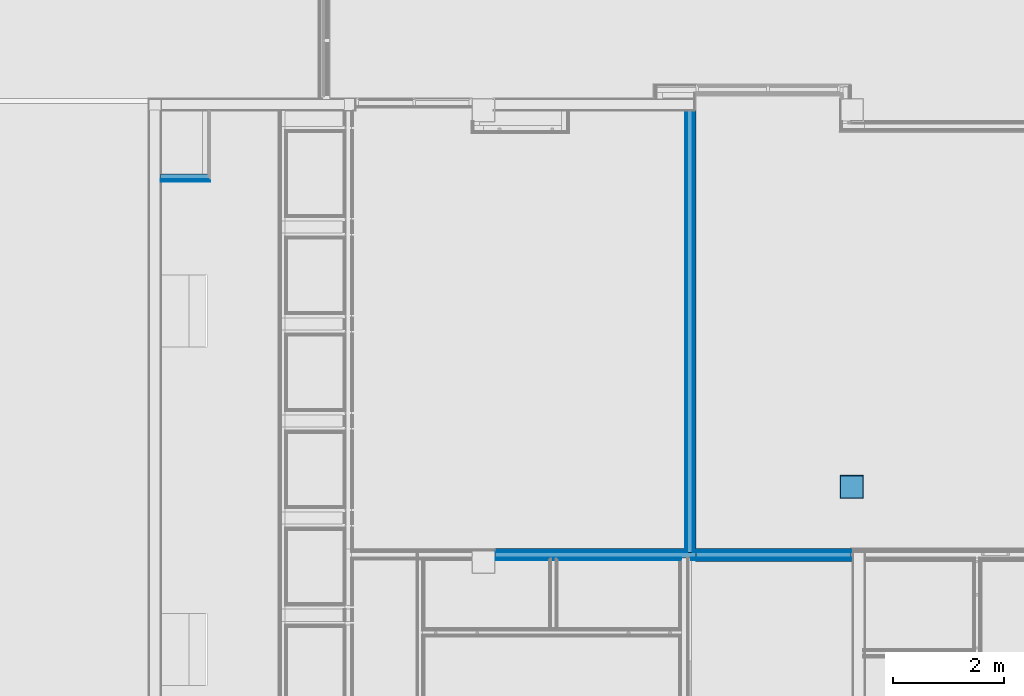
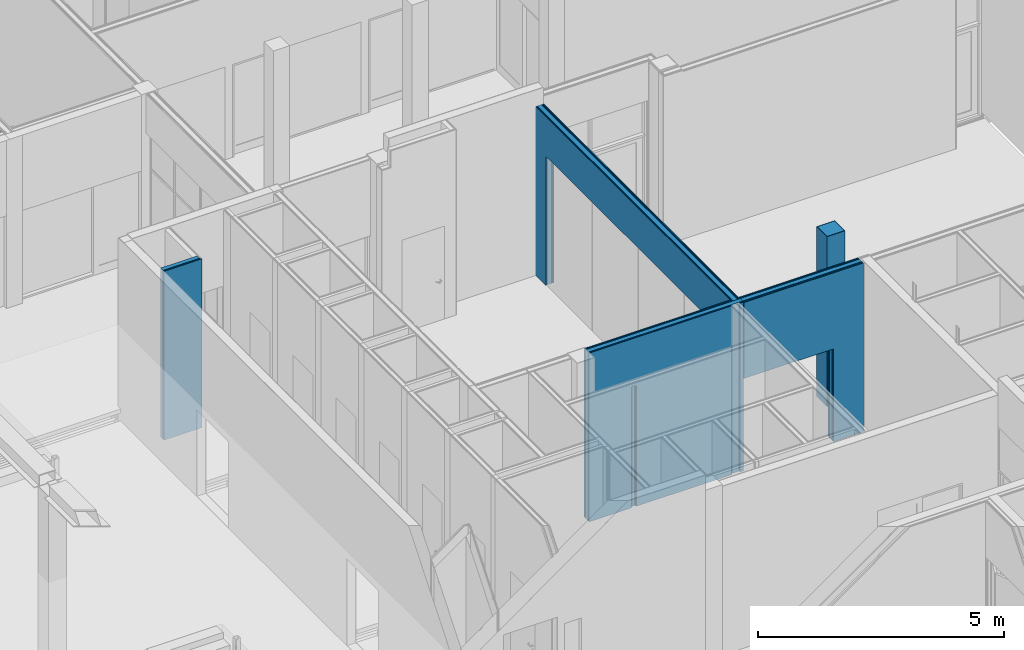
# One storey, part 208 of 260: 31 building element parts, 2 openings, 5 elements without a shape of their own.
"""IFC2X3 building model written with IfcOpenShell, lengths in millimetres."""

from ifc_helpers import new_model, entity, si_unit, converted_unit, derived_unit, money_unit, direction, frame, origin_with_axes, place, context, subcontext, project, spatial, faceted_brep, material, type_object, element, aggregate, save


model = new_model("IFC2X3")

# Units and contexts
model_context = context("Model", 3, precision=0.01, world=origin_with_axes(), true_north=direction((0.0, 1.0)))
body_context = subcontext(model_context, "Body", "Model", "MODEL_VIEW")
ifc_project = project(units=[si_unit("LENGTHUNIT", "METRE", prefix="MILLI"), si_unit("AREAUNIT", "SQUARE_METRE"), si_unit("VOLUMEUNIT", "CUBIC_METRE"), converted_unit("PLANEANGLEUNIT", "DEGREE", entity("IfcPlaneAngleMeasure", 0.0174532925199), si_unit("PLANEANGLEUNIT", "RADIAN"), dimensions=[0, 0, 0, 0, 0, 0, 0]), money_unit("EUR"), converted_unit("TIMEUNIT", "Year", entity("IfcTimeMeasure", 31556926.0), si_unit("TIMEUNIT", "SECOND"), dimensions=[0, 0, 1, 0, 0, 0, 0]), si_unit("MASSUNIT", "GRAM", prefix="KILO"), si_unit("THERMODYNAMICTEMPERATUREUNIT", "DEGREE_CELSIUS"), si_unit("LUMINOUSINTENSITYUNIT", "LUMEN"), si_unit("ENERGYUNIT", "JOULE", prefix="MEGA"), derived_unit("THERMALCONDUCTANCEUNIT", [(si_unit("POWERUNIT", "WATT"), 1), (si_unit("LENGTHUNIT", "METRE"), -1), (si_unit("THERMODYNAMICTEMPERATUREUNIT", "KELVIN"), -1)]), derived_unit("SPECIFICHEATCAPACITYUNIT", [(si_unit("ENERGYUNIT", "JOULE"), 1), (si_unit("MASSUNIT", "GRAM", prefix="KILO"), -1), (si_unit("THERMODYNAMICTEMPERATUREUNIT", "KELVIN"), -1)]), derived_unit("MASSDENSITYUNIT", [(si_unit("MASSUNIT", "GRAM", prefix="KILO"), 1), (si_unit("VOLUMEUNIT", "CUBIC_METRE"), -1)])], contexts=[model_context])

# Site, building, storey
site_placement = place(None, origin_with_axes())
site = spatial("IfcSite", under=ifc_project, at=site_placement, Name="Kolde pst 67a", CompositionType="ELEMENT")
building_placement = place(site_placement, origin_with_axes())
building = spatial("IfcBuilding", under=site, at=building_placement, Name="Riigigümnaasium", CompositionType="ELEMENT")
storey_placement = place(building_placement, origin_with_axes())
storey = spatial("IfcBuildingStorey", under=building, at=storey_placement, Name="1. korrus", CompositionType="ELEMENT", Elevation=0.0)

# Wall, opening, building element parts
wall_type_1 = type_object("IfcWallType", Name="SS-PK-10/1_vill100+2dold 220", PredefinedType="NOTDEFINED")
wall_1_placement = place(storey_placement, frame((76579.9993279, 16330.0047909, 0.0), z_axis=(0.0, 0.0, 1.0), x_axis=(-1.0, 7.27337344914e-07, 0.0)))
wall_1 = element("IfcWall", 1, at=wall_1_placement, inside=storey, type_object=wall_type_1, Name="Sisesein")
opening_1_placement = place(wall_1_placement, frame((1749.99810405, 0.0, 0.0), z_axis=(0.0, 0.0, 1.0), x_axis=(1.0, 0.0, 0.0)))
element("IfcOpeningElement", 2, at=opening_1_placement, cuts=wall_1, Name="Siseuks", context=body_context, shape_type="Brep", body=[
    faceted_brep([(1050.0017044, 440.0, 0.0), (1050.0017044, 440.0, 2300.0), (1050.0017044, -220.0, 2300.0), (1050.0017044, -220.0, 0.0), (-1050.0017044, 440.0, 0.0), (-1050.0017044, 440.0, 2300.0), (-1050.0017044, -220.0, 2300.0), (-1050.0017044, -220.0, 0.0)], [[[0, 1, 2, 3]], [[0, 4, 5, 1]], [[1, 5, 6, 2]], [[3, 2, 6, 7]], [[4, 0, 3, 7]], [[5, 4, 7, 6]]]),
])
ifc_material_1 = material(Name="_VIIMISTLUSKIHT - Dold plaat vastavalt SA osale")
building_element_part_1_placement = place(wall_1_placement, origin_with_axes())
building_element_part_1 = element("IfcBuildingElementPart", 3, at=building_element_part_1_placement, material=ifc_material_1, Name="_VIIMISTLUSKIHT - Dold plaat vastavalt SA osale", context=body_context, shape_type="Brep", body=[
    faceted_brep([(699.99639965, 200.0, 2300.0), (2799.99980844, 200.0, 2300.0), (2799.99972909, 200.0, 4185.0), (0.0, 200.0, 4185.0), (0.0, 200.0, 0.0), (699.99639965, 200.0, 0.0), (699.99639965, 220.0, 2300.0), (2799.99980844, 220.0, 2300.0), (2799.99971455, 220.0, 4185.0), (0.0, 220.0, 4185.0), (0.0, 220.0, 0.0), (699.99639965, 220.0, 0.0)], [[[0, 1, 2, 3, 4, 5]], [[1, 0, 6, 7]], [[1, 7, 8, 2]], [[3, 2, 8, 9]], [[9, 10, 4, 3]], [[11, 5, 4, 10]], [[0, 5, 11, 6]], [[6, 11, 10, 9, 8, 7]]]),
])
ifc_material_2 = material(Name="_KARKASS - eriprofiilkinnitus vastavalt sisemisele plaatviimistlusele")
building_element_part_2_placement = place(wall_1_placement, origin_with_axes())
building_element_part_2 = element("IfcBuildingElementPart", 4, at=building_element_part_2_placement, material=ifc_material_2, Name="_KARKASS - eriprofiilkinnitus vastavalt sisemisele plaatviimistlusele", context=body_context, shape_type="Brep", body=[
    faceted_brep([(699.99639965, 190.0, 2300.0), (2799.99980844, 190.0, 2300.0), (2799.99973637, 190.0, 4185.0), (0.0, 190.0, 4185.0), (0.0, 190.0, 0.0), (699.99639965, 190.0, 0.0), (699.99639965, 200.0, 2300.0), (2799.99980844, 200.0, 2300.0), (2799.99972909, 200.0, 4185.0), (0.0, 200.0, 4185.0), (0.0, 200.0, 0.0), (699.99639965, 200.0, 0.0)], [[[0, 1, 2, 3, 4, 5]], [[1, 0, 6, 7]], [[1, 7, 8, 2]], [[3, 2, 8, 9]], [[9, 10, 4, 3]], [[11, 5, 4, 10]], [[0, 5, 11, 6]], [[6, 11, 10, 9, 8, 7]]]),
])
ifc_material_3 = material(Name="_PLAATMATERJAL - tuletõkkekipsplaat, Knauf Red GKF või samaväärne")
building_element_part_3_placement = place(wall_1_placement, origin_with_axes())
building_element_part_3 = element("IfcBuildingElementPart", 5, at=building_element_part_3_placement, material=ifc_material_3, Name="_PLAATMATERJAL - tuletõkkekipsplaat, Knauf Red GKF või samaväärne", context=body_context, shape_type="Brep", body=[
    faceted_brep([(699.99639965, 175.0, 2300.0), (2799.99980844, 175.0, 2300.0), (2799.99974728, 175.0, 4185.0), (0.0, 175.0, 4185.0), (0.0, 175.0, 0.0), (699.99639965, 175.0, 0.0), (699.99639965, 190.0, 2300.0), (2799.99980844, 190.0, 2300.0), (2799.99973637, 190.0, 4185.0), (0.0, 190.0, 4185.0), (0.0, 190.0, 0.0), (699.99639965, 190.0, 0.0)], [[[0, 1, 2, 3, 4, 5]], [[1, 0, 6, 7]], [[1, 7, 8, 2]], [[3, 2, 8, 9]], [[9, 10, 4, 3]], [[11, 5, 4, 10]], [[0, 5, 11, 6]], [[6, 11, 10, 9, 8, 7]]]),
])
building_element_part_4_placement = place(wall_1_placement, origin_with_axes())
building_element_part_4 = element("IfcBuildingElementPart", 6, at=building_element_part_4_placement, material=ifc_material_3, Name="_PLAATMATERJAL - tuletõkkekipsplaat, Knauf Red GKF või samaväärne", context=body_context, shape_type="Brep", body=[
    faceted_brep([(699.99639965, 160.0, 2300.0), (2799.99980844, 160.0, 2300.0), (2799.99975819, 160.0, 4185.0), (0.0, 160.0, 4185.0), (0.0, 160.0, 0.0), (699.99639965, 160.0, 0.0), (699.99639965, 175.0, 2300.0), (2799.99980844, 175.0, 2300.0), (2799.99974728, 175.0, 4185.0), (0.0, 175.0, 4185.0), (0.0, 175.0, 0.0), (699.99639965, 175.0, 0.0)], [[[0, 1, 2, 3, 4, 5]], [[1, 0, 6, 7]], [[1, 7, 8, 2]], [[3, 2, 8, 9]], [[9, 10, 4, 3]], [[11, 5, 4, 10]], [[0, 5, 11, 6]], [[6, 11, 10, 9, 8, 7]]]),
])
ifc_material_4 = material(Name="_KARKASS - puitpruss 100x50mm vertikaalne, samm 600mm, vahel mineraalvill, helineeldetegur αw = 1.0, ISOVER ACOUSTIC 100mm või samaväärne")
building_element_part_5_placement = place(wall_1_placement, origin_with_axes())
building_element_part_5 = element("IfcBuildingElementPart", 7, at=building_element_part_5_placement, material=ifc_material_4, Name="_KARKASS - puitpruss 100x50mm vertikaalne, samm 600mm, vahel mineraalvill, helineeldetegur αw = 1.0, ISOVER ACOUSTIC 100mm või samaväärne", context=body_context, shape_type="Brep", body=[
    faceted_brep([(699.99639965, 60.0, 2300.0), (2799.99980844, 60.0, 2300.0), (2799.99983092, 60.0, 4185.0), (0.0, 60.0, 4185.0), (0.0, 60.0, 0.0), (699.99639965, 60.0, 0.0), (699.99639965, 160.0, 2300.0), (2799.99980844, 160.0, 2300.0), (2799.99975819, 160.0, 4185.0), (0.0, 160.0, 4185.0), (0.0, 160.0, 0.0), (699.99639965, 160.0, 0.0)], [[[0, 1, 2, 3, 4, 5]], [[1, 0, 6, 7]], [[1, 7, 8, 2]], [[3, 2, 8, 9]], [[9, 10, 4, 3]], [[11, 5, 4, 10]], [[0, 5, 11, 6]], [[6, 11, 10, 9, 8, 7]]]),
])
building_element_part_6_placement = place(wall_1_placement, origin_with_axes())
building_element_part_6 = element("IfcBuildingElementPart", 8, at=building_element_part_6_placement, material=ifc_material_3, Name="_PLAATMATERJAL - tuletõkkekipsplaat, Knauf Red GKF või samaväärne", context=body_context, shape_type="Brep", body=[
    faceted_brep([(699.99639965, 45.0, 2300.0), (2799.99980844, 45.0, 2300.0), (2799.99984183, 45.0, 4185.0), (0.0, 45.0, 4185.0), (0.0, 45.0, 0.0), (699.99639965, 45.0, 0.0), (699.99639965, 60.0, 2300.0), (2799.99980844, 60.0, 2300.0), (2799.99983092, 60.0, 4185.0), (0.0, 60.0, 4185.0), (0.0, 60.0, 0.0), (699.99639965, 60.0, 0.0)], [[[0, 1, 2, 3, 4, 5]], [[1, 0, 6, 7]], [[1, 7, 8, 2]], [[3, 2, 8, 9]], [[9, 10, 4, 3]], [[11, 5, 4, 10]], [[0, 5, 11, 6]], [[6, 11, 10, 9, 8, 7]]]),
])
building_element_part_7_placement = place(wall_1_placement, origin_with_axes())
building_element_part_7 = element("IfcBuildingElementPart", 9, at=building_element_part_7_placement, material=ifc_material_3, Name="_PLAATMATERJAL - tuletõkkekipsplaat, Knauf Red GKF või samaväärne", context=body_context, shape_type="Brep", body=[
    faceted_brep([(699.99639965, 30.0, 2300.0), (2799.99980844, 30.0, 2300.0), (2799.99985274, 30.0, 4185.0), (0.0, 30.0, 4185.0), (0.0, 30.0, 0.0), (699.99639965, 30.0, 0.0), (699.99639965, 45.0, 2300.0), (2799.99980844, 45.0, 2300.0), (2799.99984183, 45.0, 4185.0), (0.0, 45.0, 4185.0), (0.0, 45.0, 0.0), (699.99639965, 45.0, 0.0)], [[[0, 1, 2, 3, 4, 5]], [[1, 0, 6, 7]], [[1, 7, 8, 2]], [[3, 2, 8, 9]], [[9, 10, 4, 3]], [[11, 5, 4, 10]], [[0, 5, 11, 6]], [[6, 11, 10, 9, 8, 7]]]),
])
building_element_part_8_placement = place(wall_1_placement, origin_with_axes())
building_element_part_8 = element("IfcBuildingElementPart", 10, at=building_element_part_8_placement, material=ifc_material_2, Name="_KARKASS - eriprofiilkinnitus vastavalt sisemisele plaatviimistlusele", context=body_context, shape_type="Brep", body=[
    faceted_brep([(699.99639965, 20.0, 2300.0), (2799.99980844, 20.0, 2300.0), (2799.99986001, 20.0, 4185.0), (0.0, 20.0, 4185.0), (0.0, 20.0, 0.0), (699.99639965, 20.0, 0.0), (699.99639965, 30.0, 2300.0), (2799.99980844, 30.0, 2300.0), (2799.99985274, 30.0, 4185.0), (0.0, 30.0, 4185.0), (0.0, 30.0, 0.0), (699.99639965, 30.0, 0.0)], [[[0, 1, 2, 3, 4, 5]], [[1, 0, 6, 7]], [[1, 7, 8, 2]], [[3, 2, 8, 9]], [[9, 10, 4, 3]], [[11, 5, 4, 10]], [[0, 5, 11, 6]], [[6, 11, 10, 9, 8, 7]]]),
])
building_element_part_9_placement = place(wall_1_placement, origin_with_axes())
building_element_part_9 = element("IfcBuildingElementPart", 11, at=building_element_part_9_placement, material=ifc_material_1, Name="_VIIMISTLUSKIHT - Dold plaat vastavalt SA osale", context=body_context, shape_type="Brep", body=[
    faceted_brep([(699.99639965, 0.0, 2300.0), (2799.99980844, 0.0, 2300.0), (2799.99987456, 0.0, 4185.0), (0.0, 0.0, 4185.0), (0.0, 0.0, 0.0), (699.99639965, 0.0, 0.0), (699.99639965, 20.0, 2300.0), (2799.99980844, 20.0, 2300.0), (2799.99986001, 20.0, 4185.0), (0.0, 20.0, 4185.0), (0.0, 20.0, 0.0), (699.99639965, 20.0, 0.0)], [[[0, 1, 2, 3, 4, 5]], [[1, 0, 6, 7]], [[1, 7, 8, 2]], [[3, 2, 8, 9]], [[9, 10, 4, 3]], [[11, 5, 4, 10]], [[0, 5, 11, 6]], [[6, 11, 10, 9, 8, 7]]]),
])
aggregate(wall_1, [building_element_part_1, building_element_part_2, building_element_part_3, building_element_part_4, building_element_part_5, building_element_part_6, building_element_part_7, building_element_part_8, building_element_part_9])

# Column, building element parts
column_type = type_object("IfcColumnType", Name="_KANDETARIND - raudbetoon C25/30 vastavalt EK osale 420 x 420", PredefinedType="COLUMN")
column_placement = place(storey_placement, frame((76590.0020631, 17449.9999742, 0.0), z_axis=(0.0, 0.0, 1.0), x_axis=(1.0, 0.0, 0.0)))
column = element("IfcColumn", 12, at=column_placement, inside=storey, type_object=column_type, Name="POST", ObjectType="COLUMN")
ifc_material_5 = material(Name="_VIIMISTLUSKIHT - puit")
building_element_part_10_placement = place(column_placement, origin_with_axes())
building_element_part_10 = element("IfcBuildingElementPart", 13, at=building_element_part_10_placement, material=ifc_material_5, Name="_VIIMISTLUSKIHT - puit", context=body_context, shape_type="Brep", body=[
    faceted_brep([(-210.0, 210.0, 0.0), (-210.0, -210.0, 0.0), (-210.0, -210.0, 4220.0), (-210.0, 210.0, 4220.0), (210.0, 210.0, 0.0), (210.0, -210.0, 0.0), (-199.999997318, -199.999997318, 0.0), (199.999997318, -199.999997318, 0.0), (199.999997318, 199.999997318, 0.0), (-199.999997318, 199.999997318, 0.0), (210.0, -210.0, 4220.0), (210.0, 210.0, 4220.0), (-199.999997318, -199.999997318, 4220.0), (-199.999997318, 199.999997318, 4220.0), (199.999997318, 199.999997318, 4220.0), (199.999997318, -199.999997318, 4220.0)], [[[0, 1, 2, 3]], [[0, 4, 5, 1], [6, 7, 8, 9]], [[1, 5, 10, 2]], [[3, 2, 10, 11], [12, 13, 14, 15]], [[4, 0, 3, 11]], [[5, 4, 11, 10]], [[7, 6, 12, 15]], [[8, 7, 15, 14]], [[9, 8, 14, 13]], [[6, 9, 13, 12]]]),
])
ifc_material_6 = material(Name="_KANDETARIND - raudbetoon C25/30 vastavalt EK osale")
building_element_part_11_placement = place(column_placement, origin_with_axes())
building_element_part_11 = element("IfcBuildingElementPart", 14, at=building_element_part_11_placement, material=ifc_material_6, Name="_KANDETARIND - raudbetoon C25/30 vastavalt EK osale", context=body_context, shape_type="Brep", body=[
    faceted_brep([(-200.0, -200.0, 0.0), (200.0, -200.0, 0.0), (200.0, -200.0, 4220.0), (-200.0, -200.0, 4220.0), (-200.0, 200.0, 0.0), (200.0, 200.0, 0.0), (200.0, 200.0, 4220.0), (-200.0, 200.0, 4220.0)], [[[0, 1, 2, 3]], [[0, 4, 5, 1]], [[1, 5, 6, 2]], [[3, 2, 6, 7]], [[4, 0, 3, 7]], [[5, 4, 7, 6]]]),
])
aggregate(column, [building_element_part_10, building_element_part_11])

# Wall, building element parts
wall_type_2 = type_object("IfcWallType", Name="SS-PK-10/2_vill100+dold+plaat 200", PredefinedType="NOTDEFINED")
wall_2_placement = place(storey_placement, frame((73779.9995264, 16130.0066087, 0.0), z_axis=(0.0, 0.0, 1.0), x_axis=(-1.0, 7.29142153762e-07, 0.0)))
wall_2 = element("IfcWall", 15, at=wall_2_placement, inside=storey, type_object=wall_type_2, Name="Sisesein")
ifc_material_7 = material(Name="_VIIMISTLUSKIHT - viimistlus vastavalt SA osale")
building_element_part_12_placement = place(wall_2_placement, origin_with_axes())
building_element_part_12 = element("IfcBuildingElementPart", 16, at=building_element_part_12_placement, material=ifc_material_7, Name="_VIIMISTLUSKIHT - viimistlus vastavalt SA osale", context=body_context, shape_type="Brep", body=[
    faceted_brep([(3620.00022846, -15.0, 4185.0), (285.000007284, -15.0, 4185.0), (285.000007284, -15.0, 0.0), (2504.9999668, -15.0, 0.0), (2504.9999668, -15.0, 3000.0), (2629.9999668, -15.0, 3000.0), (2629.9999668, -15.0, 0.0), (3620.00022846, -15.0, 0.0), (284.999996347, 0.0, 4185.0), (3620.00022846, 0.0, 4185.0), (284.999996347, 0.0, 0.0), (2504.99996301, 0.0, 0.0), (2504.99996301, 0.0, 3000.0), (2629.99996301, 0.0, 3000.0), (2629.99996301, 0.0, 0.0), (3620.00022846, 0.0, 0.0)], [[[0, 1, 2, 3, 4, 5, 6, 7]], [[8, 1, 0, 9]], [[1, 8, 10, 2]], [[10, 11, 3, 2]], [[12, 4, 3, 11]], [[5, 4, 12, 13]], [[14, 6, 5, 13]], [[7, 6, 14, 15]], [[9, 0, 7, 15]], [[8, 9, 15, 14, 13, 12, 11, 10]]]),
    faceted_brep([(83.0000072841, -15.0, 4185.0), (7.28408622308e-06, -15.0, 4185.0), (0.0, -15.0, 0.0), (83.0000072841, -15.0, 0.0), (-3.65305652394e-06, 0.0, 4185.0), (82.999996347, 0.0, 4185.0), (0.0, 0.0, 0.0), (82.999996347, 0.0, 0.0)], [[[0, 1, 2, 3]], [[4, 1, 0, 5]], [[1, 4, 6, 2]], [[6, 7, 3, 2]], [[5, 0, 3, 7]], [[4, 5, 7, 6]]]),
])
ifc_material_8 = material(Name="_PLAATMATERJAL - kipsplaat veekindel")
building_element_part_13_placement = place(wall_2_placement, origin_with_axes())
building_element_part_13 = element("IfcBuildingElementPart", 17, at=building_element_part_13_placement, material=ifc_material_8, Name="_PLAATMATERJAL - kipsplaat veekindel", context=body_context, shape_type="Brep", body=[
    faceted_brep([(3620.00022846, -27.5, 4185.0), (272.500016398, -27.5, 4185.0), (272.500016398, -27.5, 0.0), (2517.49996996, -27.5, 0.0), (2517.49996996, -27.5, 3000.0), (2617.49996996, -27.5, 3000.0), (2617.49996996, -27.5, 0.0), (3620.00022846, -27.5, 0.0), (272.500007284, -15.0, 4185.0), (3620.00022846, -15.0, 4185.0), (272.500007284, -15.0, 0.0), (2517.4999668, -15.0, 0.0), (2517.4999668, -15.0, 3000.0), (2617.4999668, -15.0, 3000.0), (2617.4999668, -15.0, 0.0), (3620.00022846, -15.0, 0.0)], [[[0, 1, 2, 3, 4, 5, 6, 7]], [[8, 1, 0, 9]], [[1, 8, 10, 2]], [[10, 11, 3, 2]], [[12, 4, 3, 11]], [[5, 4, 12, 13]], [[14, 6, 5, 13]], [[7, 6, 14, 15]], [[9, 0, 7, 15]], [[8, 9, 15, 14, 13, 12, 11, 10]]]),
    faceted_brep([(83.0000163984, -27.5, 4185.0), (1.63983600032e-05, -27.5, 4185.0), (0.0, -27.5, 0.0), (83.0000163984, -27.5, 0.0), (7.28408622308e-06, -15.0, 4185.0), (83.0000072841, -15.0, 4185.0), (0.0, -15.0, 0.0), (83.0000072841, -15.0, 0.0)], [[[0, 1, 2, 3]], [[4, 1, 0, 5]], [[1, 4, 6, 2]], [[6, 7, 3, 2]], [[5, 0, 3, 7]], [[4, 5, 7, 6]]]),
])
building_element_part_14_placement = place(wall_2_placement, origin_with_axes())
building_element_part_14 = element("IfcBuildingElementPart", 18, at=building_element_part_14_placement, material=ifc_material_8, Name="_PLAATMATERJAL - kipsplaat veekindel", context=body_context, shape_type="Brep", body=[
    faceted_brep([(3620.00022846, -40.0, 4185.0), (260.000025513, -40.0, 4185.0), (260.000025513, -40.0, 0.0), (2529.99997312, -40.0, 0.0), (2529.99997312, -40.0, 3000.0), (2604.99997312, -40.0, 3000.0), (2604.99997312, -40.0, 0.0), (3620.00022846, -40.0, 0.0), (260.000016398, -27.5, 4185.0), (3620.00022846, -27.5, 4185.0), (260.000016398, -27.5, 0.0), (2529.99996996, -27.5, 0.0), (2529.99996996, -27.5, 3000.0), (2604.99996996, -27.5, 3000.0), (2604.99996996, -27.5, 0.0), (3620.00022846, -27.5, 0.0)], [[[0, 1, 2, 3, 4, 5, 6, 7]], [[8, 1, 0, 9]], [[1, 8, 10, 2]], [[10, 11, 3, 2]], [[12, 4, 3, 11]], [[13, 5, 4, 12]], [[14, 6, 5, 13]], [[7, 6, 14, 15]], [[9, 0, 7, 15]], [[8, 9, 15, 14, 13, 12, 11, 10]]]),
    faceted_brep([(83.0000255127, -40.0, 4185.0), (2.55126337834e-05, -40.0, 4185.0), (0.0, -40.0, 0.0), (83.0000255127, -40.0, 0.0), (1.63983600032e-05, -27.5, 4185.0), (83.0000163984, -27.5, 4185.0), (0.0, -27.5, 0.0), (83.0000163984, -27.5, 0.0)], [[[0, 1, 2, 3]], [[4, 1, 0, 5]], [[1, 4, 6, 2]], [[6, 7, 3, 2]], [[5, 0, 3, 7]], [[4, 5, 7, 6]]]),
])
building_element_part_15_placement = place(wall_2_placement, origin_with_axes())
building_element_part_15 = element("IfcBuildingElementPart", 19, at=building_element_part_15_placement, material=ifc_material_4, Name="_KARKASS - puitpruss 100x50mm vertikaalne, samm 600mm, vahel mineraalvill, helineeldetegur αw = 1.0, ISOVER ACOUSTIC 100mm või samaväärne", context=body_context, shape_type="Brep", body=[
    faceted_brep([(3620.00022846, -140.0, 4185.0), (9.84268524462e-05, -140.0, 4185.0), (0.0, -140.0, 0.0), (3620.00022846, -140.0, 0.0), (2.55126337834e-05, -40.0, 4185.0), (3620.00022846, -40.0, 4185.0), (0.0, -40.0, 0.0), (3620.00022846, -40.0, 0.0)], [[[0, 1, 2, 3]], [[4, 1, 0, 5]], [[1, 4, 6, 2]], [[6, 7, 3, 2]], [[5, 0, 3, 7]], [[4, 5, 7, 6]]]),
])
building_element_part_16_placement = place(wall_2_placement, origin_with_axes())
building_element_part_16 = element("IfcBuildingElementPart", 20, at=building_element_part_16_placement, material=ifc_material_3, Name="_PLAATMATERJAL - tuletõkkekipsplaat, Knauf Red GKF või samaväärne", context=body_context, shape_type="Brep", body=[
    faceted_brep([(3620.00022846, -155.0, 4185.0), (160.005909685, -155.0, 4185.0), (160.005909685, -155.0, 0.0), (3620.00022846, -155.0, 0.0), (160.005909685, -140.0, 4185.0), (3620.00022846, -140.0, 4185.0), (160.005909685, -140.0, 0.0), (3620.00022846, -140.0, 0.0)], [[[0, 1, 2, 3]], [[4, 1, 0, 5]], [[1, 4, 6, 2]], [[3, 2, 6, 7]], [[5, 0, 3, 7]], [[4, 5, 7, 6]]]),
    faceted_brep([(60.0059096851, -155.0, 4185.0), (0.000109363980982, -155.0, 4185.0), (0.0, -155.0, 0.0), (60.0059096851, -155.0, 0.0), (9.84268524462e-05, -140.0, 4185.0), (60.0059096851, -140.0, 4185.0), (0.0, -140.0, 0.0), (60.0059096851, -140.0, 0.0)], [[[0, 1, 2, 3]], [[4, 1, 0, 5]], [[1, 4, 6, 2]], [[6, 7, 3, 2]], [[5, 0, 3, 7]], [[4, 5, 7, 6]]]),
])
building_element_part_17_placement = place(wall_2_placement, origin_with_axes())
building_element_part_17 = element("IfcBuildingElementPart", 21, at=building_element_part_17_placement, material=ifc_material_3, Name="_PLAATMATERJAL - tuletõkkekipsplaat, Knauf Red GKF või samaväärne", context=body_context, shape_type="Brep", body=[
    faceted_brep([(3620.00022846, -170.0, 4185.0), (160.005909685, -170.0, 4185.0), (160.005909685, -170.0, 0.0), (3620.00022846, -170.0, 0.0), (160.005909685, -155.0, 4185.0), (3620.00022846, -155.0, 4185.0), (160.005909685, -155.0, 0.0), (3620.00022846, -155.0, 0.0)], [[[0, 1, 2, 3]], [[4, 1, 0, 5]], [[1, 4, 6, 2]], [[3, 2, 6, 7]], [[5, 0, 3, 7]], [[4, 5, 7, 6]]]),
    faceted_brep([(45.0059096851, -170.0, 4185.0), (0.000120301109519, -170.0, 4185.0), (0.0, -170.0, 0.0), (45.0059096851, -170.0, 0.0), (0.000109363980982, -155.0, 4185.0), (45.0059096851, -155.0, 4185.0), (0.0, -155.0, 0.0), (45.0059096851, -155.0, 0.0)], [[[0, 1, 2, 3]], [[4, 1, 0, 5]], [[1, 4, 6, 2]], [[6, 7, 3, 2]], [[5, 0, 3, 7]], [[4, 5, 7, 6]]]),
])
building_element_part_18_placement = place(wall_2_placement, origin_with_axes())
building_element_part_18 = element("IfcBuildingElementPart", 22, at=building_element_part_18_placement, material=ifc_material_2, Name="_KARKASS - eriprofiilkinnitus vastavalt sisemisele plaatviimistlusele", context=body_context, shape_type="Brep", body=[
    faceted_brep([(3620.00022846, -180.0, 4185.0), (160.005909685, -180.0, 4185.0), (160.005909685, -180.0, 0.0), (3620.00022846, -180.0, 0.0), (160.005909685, -170.0, 4185.0), (3620.00022846, -170.0, 4185.0), (160.005909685, -170.0, 0.0), (3620.00022846, -170.0, 0.0)], [[[0, 1, 2, 3]], [[4, 1, 0, 5]], [[1, 4, 6, 2]], [[3, 2, 6, 7]], [[5, 0, 3, 7]], [[4, 5, 7, 6]]]),
    faceted_brep([(30.0059096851, -180.0, 4185.0), (0.000127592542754, -180.0, 4185.0), (0.0, -180.0, 0.0), (30.0059096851, -180.0, 0.0), (0.000120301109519, -170.0, 4185.0), (30.0059096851, -170.0, 4185.0), (0.0, -170.0, 0.0), (30.0059096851, -170.0, 0.0)], [[[0, 1, 2, 3]], [[4, 1, 0, 5]], [[1, 4, 6, 2]], [[6, 7, 3, 2]], [[5, 0, 3, 7]], [[4, 5, 7, 6]]]),
])
building_element_part_19_placement = place(wall_2_placement, origin_with_axes())
building_element_part_19 = element("IfcBuildingElementPart", 23, at=building_element_part_19_placement, material=ifc_material_7, Name="_VIIMISTLUSKIHT - viimistlus vastavalt SA osale", context=body_context, shape_type="Brep", body=[
    faceted_brep([(3620.00022846, -200.0, 4185.0), (190.005909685, -200.0, 4185.0), (190.005909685, -200.0, 0.0), (3620.00022846, -200.0, 0.0), (190.005909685, -180.0, 4185.0), (3620.00022846, -180.0, 4185.0), (190.005909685, -180.0, 0.0), (3620.00022846, -180.0, 0.0)], [[[0, 1, 2, 3]], [[4, 1, 0, 5]], [[1, 4, 6, 2]], [[3, 2, 6, 7]], [[5, 0, 3, 7]], [[4, 5, 7, 6]]]),
    faceted_brep([(20.0059096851, -200.0, 4185.0), (0.000142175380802, -200.0, 4185.0), (0.0, -200.0, 0.0), (20.0059096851, -200.0, 0.0), (0.000127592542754, -180.0, 4185.0), (20.0059096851, -180.0, 4185.0), (0.0, -180.0, 0.0), (20.0059096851, -180.0, 0.0)], [[[0, 1, 2, 3]], [[4, 1, 0, 5]], [[1, 4, 6, 2]], [[6, 7, 3, 2]], [[5, 0, 3, 7]], [[4, 5, 7, 6]]]),
])
aggregate(wall_2, [building_element_part_12, building_element_part_13, building_element_part_14, building_element_part_15, building_element_part_16, building_element_part_17, building_element_part_18, building_element_part_19])

wall_type_3 = type_object("IfcWallType", Name="SS-MK-10/2_šahti sein+plaat 140", PredefinedType="NOTDEFINED")
wall_3_placement = place(storey_placement, frame((64129.5817185, 22953.9730711, 0.0), z_axis=(0.0, 0.0, 1.0), x_axis=(0.999999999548, 3.00795503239e-05, 0.0)))
wall_3 = element("IfcWall", 24, at=wall_3_placement, inside=storey, type_object=wall_type_3, Name="Sisesein")
ifc_material_9 = material(Name="_KARKASS - metallkarkass CW 100/50/06 ja UW 100/40/06, samm 600, vahel mineraalvill, helineeldetegur αw = 1.0,  ISOVER ACOUSTIC 100mm või samaväärne")
building_element_part_20_placement = place(wall_3_placement, origin_with_axes())
building_element_part_20 = element("IfcBuildingElementPart", 25, at=building_element_part_20_placement, material=ifc_material_9, Name="_KARKASS - metallkarkass CW 100/50/06 ja UW 100/40/06, samm 600, vahel mineraalvill, helineeldetegur αw = 1.0,  ISOVER ACOUSTIC 100mm või samaväärne", context=body_context, shape_type="Brep", body=[
    faceted_brep([(0.0, 140.0, 4185.0), (854.417222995, 140.0, 4185.0), (854.417222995, 140.0, 0.0), (0.0, 140.0, 0.0), (854.41421504, 40.0, 4185.0), (0.0, 40.0, 4185.0), (854.41421504, 40.0, 0.0), (0.0, 40.0, 0.0)], [[[0, 1, 2, 3]], [[4, 1, 0, 5]], [[1, 4, 6, 2]], [[2, 6, 7, 3]], [[5, 0, 3, 7]], [[4, 5, 7, 6]]]),
])
building_element_part_21_placement = place(wall_3_placement, origin_with_axes())
building_element_part_21 = element("IfcBuildingElementPart", 26, at=building_element_part_21_placement, material=ifc_material_8, Name="_PLAATMATERJAL - kipsplaat veekindel", context=body_context, shape_type="Brep", body=[
    faceted_brep([(0.0, 40.0, 4185.0), (866.914215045, 40.0, 4185.0), (866.914215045, 40.0, 0.0), (0.0, 40.0, 0.0), (866.913839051, 27.5, 4185.0), (0.0, 27.5, 4185.0), (866.913839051, 27.5, 0.0), (0.0, 27.5, 0.0)], [[[0, 1, 2, 3]], [[4, 1, 0, 5]], [[1, 4, 6, 2]], [[2, 6, 7, 3]], [[5, 0, 3, 7]], [[4, 5, 7, 6]]]),
])
building_element_part_22_placement = place(wall_3_placement, origin_with_axes())
building_element_part_22 = element("IfcBuildingElementPart", 27, at=building_element_part_22_placement, material=ifc_material_8, Name="_PLAATMATERJAL - kipsplaat veekindel", context=body_context, shape_type="Brep", body=[
    faceted_brep([(0.0, 27.5, 4185.0), (879.413839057, 27.5, 4185.0), (879.413839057, 27.5, 0.0), (0.0, 27.5, 0.0), (879.413463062, 15.0, 4185.0), (0.0, 15.0, 4185.0), (879.413463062, 15.0, 0.0), (0.0, 15.0, 0.0)], [[[0, 1, 2, 3]], [[4, 1, 0, 5]], [[1, 4, 6, 2]], [[2, 6, 7, 3]], [[5, 0, 3, 7]], [[4, 5, 7, 6]]]),
])
building_element_part_23_placement = place(wall_3_placement, origin_with_axes())
building_element_part_23 = element("IfcBuildingElementPart", 28, at=building_element_part_23_placement, material=ifc_material_7, Name="_VIIMISTLUSKIHT - viimistlus vastavalt SA osale", context=body_context, shape_type="Brep", body=[
    faceted_brep([(0.0, 15.0, 4185.0), (894.413463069, 15.0, 4185.0), (894.413463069, 15.0, 0.0), (0.0, 15.0, 0.0), (894.413011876, 0.0, 4185.0), (0.0, 0.0, 4185.0), (894.413011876, 0.0, 0.0), (0.0, 0.0, 0.0)], [[[0, 1, 2, 3]], [[4, 1, 0, 5]], [[1, 4, 6, 2]], [[2, 6, 7, 3]], [[5, 0, 3, 7]], [[4, 5, 7, 6]]]),
])
aggregate(wall_3, [building_element_part_20, building_element_part_21, building_element_part_22, building_element_part_23])

# Wall, opening, building element parts
wall_type_4 = type_object("IfcWallType", Name="SS-PK-10/3_vill100+dold+värv 195", PredefinedType="NOTDEFINED")
wall_4_placement = place(storey_placement, frame((73584.9936167, 16130.0067509, 0.0), z_axis=(0.0, 0.0, 1.0), x_axis=(7.29142155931e-07, 1.0, 0.0)))
wall_4 = element("IfcWall", 29, at=wall_4_placement, inside=storey, type_object=wall_type_4, Name="Sisesein")
opening_2_placement = place(wall_4_placement, frame((3947.5468095, 0.0, 0.0), z_axis=(0.0, 0.0, 1.0), x_axis=(1.0, 0.0, 0.0)))
element("IfcOpeningElement", 30, at=opening_2_placement, cuts=wall_4, Name="Siirdesein", context=body_context, shape_type="Brep", body=[
    faceted_brep([(-3747.54657511, -390.0, 0.0), (-3747.54657511, -390.0, 3200.0), (-3747.54657511, 195.0, 3200.0), (-3747.54657511, 195.0, 0.0), (3747.54657511, -390.0, 0.0), (3747.54657511, -390.0, 3200.0), (3747.54657511, 195.0, 3200.0), (3747.54657511, 195.0, 0.0)], [[[0, 1, 2, 3]], [[0, 4, 5, 1]], [[1, 5, 6, 2]], [[3, 2, 6, 7]], [[4, 0, 3, 7]], [[5, 4, 7, 6]]]),
])
building_element_part_24_placement = place(wall_4_placement, origin_with_axes())
building_element_part_24 = element("IfcBuildingElementPart", 31, at=building_element_part_24_placement, material=ifc_material_7, Name="_VIIMISTLUSKIHT - viimistlus vastavalt SA osale", context=body_context, shape_type="Brep", body=[
    faceted_brep([(7695.09338461, -5.0, 3200.0), (7695.09338461, -5.0, 0.0), (8109.99337967, -5.0, 0.0), (8109.99337967, -5.0, 4185.0), (200.0, -5.0, 4185.0), (200.00023439, -5.0, 3200.0), (7695.09338461, 0.0, 3200.0), (7695.09338461, 0.0, 0.0), (8109.99337967, 0.0, 0.0), (8109.99337967, 0.0, 4185.0), (200.0, 0.0, 4185.0), (200.00023439, 0.0, 3200.0)], [[[0, 1, 2, 3, 4, 5]], [[1, 0, 6, 7]], [[1, 7, 8, 2]], [[2, 8, 9, 3]], [[9, 10, 4, 3]], [[11, 5, 4, 10]], [[0, 5, 11, 6]], [[6, 11, 10, 9, 8, 7]]]),
])
building_element_part_25_placement = place(wall_4_placement, origin_with_axes())
building_element_part_25 = element("IfcBuildingElementPart", 32, at=building_element_part_25_placement, material=ifc_material_3, Name="_PLAATMATERJAL - tuletõkkekipsplaat, Knauf Red GKF või samaväärne", context=body_context, shape_type="Brep", body=[
    faceted_brep([(200.00023439, -20.0, 0.0), (200.00023439, -20.0, 3200.0), (7695.09338461, -20.0, 3200.0), (7695.09338461, -20.0, 0.0), (8109.99337967, -20.0, 0.0), (8109.99337967, -20.0, 4185.0), (180.0, -20.0, 4185.0), (180.0, -20.0, 0.0), (200.00023439, -4.99999999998, 0.0), (200.00023439, -5.0, 3200.0), (7695.09338461, -5.0, 3200.0), (7695.09338461, -5.0, 0.0), (8109.99337967, -5.0, 0.0), (8109.99337967, -5.0, 4185.0), (180.0, -5.0, 4185.0), (180.0, -5.0, 0.0)], [[[0, 1, 2, 3, 4, 5, 6, 7]], [[1, 0, 8, 9]], [[2, 1, 9, 10]], [[3, 2, 10, 11]], [[3, 11, 12, 4]], [[4, 12, 13, 5]], [[13, 14, 6, 5]], [[14, 15, 7, 6]], [[8, 0, 7, 15]], [[9, 8, 15, 14, 13, 12, 11, 10]]]),
])
ifc_material_10 = material(Name="_PLAATMATERJAL - OSB3 plaat")
building_element_part_26_placement = place(wall_4_placement, origin_with_axes())
building_element_part_26 = element("IfcBuildingElementPart", 33, at=building_element_part_26_placement, material=ifc_material_10, Name="_PLAATMATERJAL - OSB3 plaat", context=body_context, shape_type="Brep", body=[
    faceted_brep([(200.00023439, -35.0, 0.0), (200.00023439, -35.0, 3200.0), (7695.09338461, -35.0, 3200.0), (7695.09338461, -35.0, 0.0), (8109.99337967, -35.0, 0.0), (8109.99337967, -35.0, 4185.0), (180.0, -35.0, 4185.0), (180.0, -35.0, 0.0), (200.00023439, -20.0, 0.0), (200.00023439, -20.0, 3200.0), (7695.09338461, -20.0, 3200.0), (7695.09338461, -20.0, 0.0), (8109.99337967, -20.0, 0.0), (8109.99337967, -20.0, 4185.0), (180.0, -20.0, 4185.0), (180.0, -20.0, 0.0)], [[[0, 1, 2, 3, 4, 5, 6, 7]], [[1, 0, 8, 9]], [[2, 1, 9, 10]], [[3, 2, 10, 11]], [[3, 11, 12, 4]], [[4, 12, 13, 5]], [[13, 14, 6, 5]], [[14, 15, 7, 6]], [[8, 0, 7, 15]], [[9, 8, 15, 14, 13, 12, 11, 10]]]),
])
building_element_part_27_placement = place(wall_4_placement, origin_with_axes())
building_element_part_27 = element("IfcBuildingElementPart", 34, at=building_element_part_27_placement, material=ifc_material_4, Name="_KARKASS - puitpruss 100x50mm vertikaalne, samm 600mm, vahel mineraalvill, helineeldetegur αw = 1.0, ISOVER ACOUSTIC 100mm või samaväärne", context=body_context, shape_type="Brep", body=[
    faceted_brep([(200.00023439, -135.0, 0.0), (200.00023439, -135.0, 3200.0), (7695.09338461, -135.0, 3200.0), (7695.09338461, -135.0, 0.0), (8109.99337967, -135.0, 0.0), (8109.99337967, -135.0, 4185.0), (140.0, -135.0, 4185.0), (140.0, -135.0, 0.0), (200.00023439, -35.0, 0.0), (200.00023439, -35.0, 3200.0), (7695.09338461, -35.0, 3200.0), (7695.09338461, -35.0, 0.0), (8109.99337967, -35.0, 0.0), (8109.99337967, -35.0, 4185.0), (140.0, -35.0, 4185.0), (140.0, -35.0, 0.0)], [[[0, 1, 2, 3, 4, 5, 6, 7]], [[1, 0, 8, 9]], [[2, 1, 9, 10]], [[3, 2, 10, 11]], [[3, 11, 12, 4]], [[4, 12, 13, 5]], [[13, 14, 6, 5]], [[14, 15, 7, 6]], [[8, 0, 7, 15]], [[9, 8, 15, 14, 13, 12, 11, 10]]]),
])
building_element_part_28_placement = place(wall_4_placement, origin_with_axes())
building_element_part_28 = element("IfcBuildingElementPart", 35, at=building_element_part_28_placement, material=ifc_material_10, Name="_PLAATMATERJAL - OSB3 plaat", context=body_context, shape_type="Brep", body=[
    faceted_brep([(200.00023439, -150.0, 0.0), (200.00023439, -150.0, 3200.0), (7695.09338461, -150.0, 3200.0), (7695.09338461, -150.0, 0.0), (8109.99337967, -150.0, 0.0), (8109.99337967, -150.0, 4185.0), (155.0, -150.0, 4185.0), (155.0, -150.0, 0.0), (200.00023439, -135.0, 0.0), (200.00023439, -135.0, 3200.0), (7695.09338461, -135.0, 3200.0), (7695.09338461, -135.0, 0.0), (8109.99337967, -135.0, 0.0), (8109.99337967, -135.0, 4185.0), (155.0, -135.0, 4185.0), (155.0, -135.0, 0.0)], [[[0, 1, 2, 3, 4, 5, 6, 7]], [[1, 0, 8, 9]], [[2, 1, 9, 10]], [[3, 2, 10, 11]], [[3, 11, 12, 4]], [[4, 12, 13, 5]], [[13, 14, 6, 5]], [[14, 15, 7, 6]], [[8, 0, 7, 15]], [[9, 8, 15, 14, 13, 12, 11, 10]]]),
])
building_element_part_29_placement = place(wall_4_placement, origin_with_axes())
building_element_part_29 = element("IfcBuildingElementPart", 36, at=building_element_part_29_placement, material=ifc_material_3, Name="_PLAATMATERJAL - tuletõkkekipsplaat, Knauf Red GKF või samaväärne", context=body_context, shape_type="Brep", body=[
    faceted_brep([(200.00023439, -165.0, 0.0), (200.00023439, -165.0, 3200.0), (7695.09338461, -165.0, 3200.0), (7695.09338461, -165.0, 0.0), (8109.99337967, -165.0, 0.0), (8109.99337967, -165.0, 4185.0), (170.0, -165.0, 4185.0), (170.0, -165.0, 0.0), (200.00023439, -150.0, 0.0), (200.00023439, -150.0, 3200.0), (7695.09338461, -150.0, 3200.0), (7695.09338461, -150.0, 0.0), (8109.99337967, -150.0, 0.0), (8109.99337967, -150.0, 4185.0), (170.0, -150.0, 4185.0), (170.0, -150.0, 0.0)], [[[0, 1, 2, 3, 4, 5, 6, 7]], [[1, 0, 8, 9]], [[2, 1, 9, 10]], [[3, 2, 10, 11]], [[3, 11, 12, 4]], [[4, 12, 13, 5]], [[13, 14, 6, 5]], [[14, 15, 7, 6]], [[8, 0, 7, 15]], [[9, 8, 15, 14, 13, 12, 11, 10]]]),
])
building_element_part_30_placement = place(wall_4_placement, origin_with_axes())
building_element_part_30 = element("IfcBuildingElementPart", 37, at=building_element_part_30_placement, material=ifc_material_2, Name="_KARKASS - eriprofiilkinnitus vastavalt sisemisele plaatviimistlusele", context=body_context, shape_type="Brep", body=[
    faceted_brep([(200.00023439, -175.0, 0.0), (200.00023439, -175.0, 3200.0), (7695.09338461, -175.0, 3200.0), (7695.09338461, -175.0, 0.0), (8109.99337967, -175.0, 0.0), (8109.99337967, -175.0, 4185.0), (180.0, -175.0, 4185.0), (180.0, -175.0, 0.0), (200.00023439, -165.0, 0.0), (200.00023439, -165.0, 3200.0), (7695.09338461, -165.0, 3200.0), (7695.09338461, -165.0, 0.0), (8109.99337967, -165.0, 0.0), (8109.99337967, -165.0, 4185.0), (180.0, -165.0, 4185.0), (180.0, -165.0, 0.0)], [[[0, 1, 2, 3, 4, 5, 6, 7]], [[1, 0, 8, 9]], [[2, 1, 9, 10]], [[3, 2, 10, 11]], [[3, 11, 12, 4]], [[4, 12, 13, 5]], [[13, 14, 6, 5]], [[14, 15, 7, 6]], [[8, 0, 7, 15]], [[9, 8, 15, 14, 13, 12, 11, 10]]]),
])
building_element_part_31_placement = place(wall_4_placement, origin_with_axes())
building_element_part_31 = element("IfcBuildingElementPart", 38, at=building_element_part_31_placement, material=ifc_material_7, Name="_VIIMISTLUSKIHT - viimistlus vastavalt SA osale", context=body_context, shape_type="Brep", body=[
    faceted_brep([(7695.09338461, -195.0, 3200.0), (7695.09338461, -195.0, 0.0), (8109.99337967, -195.0, 0.0), (8109.99337967, -195.0, 4185.0), (200.0, -195.0, 4185.0), (200.00023439, -195.0, 3200.0), (7695.09338461, -175.0, 3200.0), (7695.09338461, -175.0, 0.0), (8109.99337967, -175.0, 0.0), (8109.99337967, -175.0, 4185.0), (200.0, -175.0, 4185.0), (200.00023439, -175.0, 3200.0)], [[[0, 1, 2, 3, 4, 5]], [[1, 0, 6, 7]], [[1, 7, 8, 2]], [[2, 8, 9, 3]], [[9, 10, 4, 3]], [[11, 5, 4, 10]], [[0, 5, 11, 6]], [[6, 11, 10, 9, 8, 7]]]),
])
aggregate(wall_4, [building_element_part_24, building_element_part_25, building_element_part_26, building_element_part_27, building_element_part_28, building_element_part_29, building_element_part_30, building_element_part_31])

save(model, "model.ifc")
